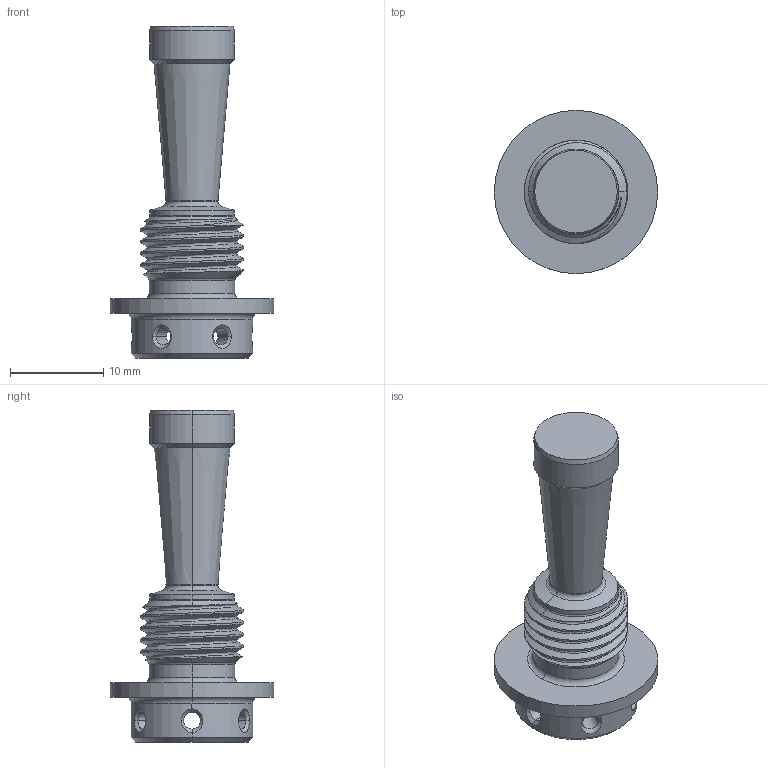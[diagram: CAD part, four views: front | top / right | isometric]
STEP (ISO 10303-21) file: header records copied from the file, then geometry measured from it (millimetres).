
FILE_DESCRIPTION (( 'STEP AP214' ), '1' );
FILE_NAME ('3DBASA4371000A.STEP', '2021-03-31T17:44:51', ( '' ), ( '' ), 'SwSTEP 2.0', 'SolidWorks 2019', '' );
FILE_SCHEMA (( 'AUTOMOTIVE_DESIGN' ));
Length unit declared in the file: inch
Products named in the file (1): 3DBASA4371000A
Bounding box: 17.55 x 17.55 x 35.69 mm (x, y, z)
Volume: 2307 mm3; surface area: 1810.6 mm2
Topology: 1 solids, 1 shells, 283 faces, 723 edges, 467 vertices
Faces by surface type: plane 143, bspline 68, cylinder 31, cone 29, torus 12
Entity records: 16626 total; most frequent: CARTESIAN_POINT 7832, ORIENTED_EDGE 1446, DIRECTION 1060, EDGE_CURVE 723, VERTEX_POINT 467, VECTOR 450, LINE 450, EDGE_LOOP 320
